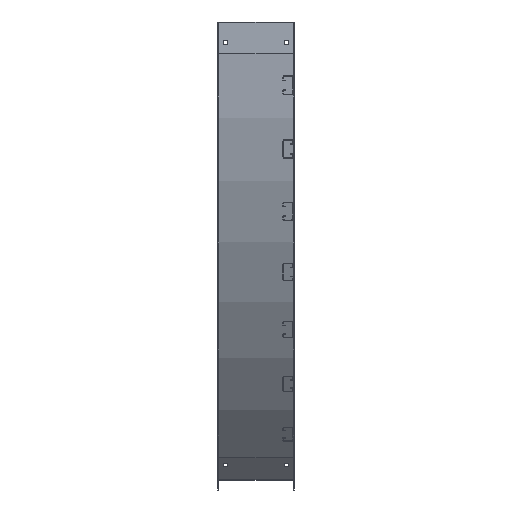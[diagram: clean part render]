
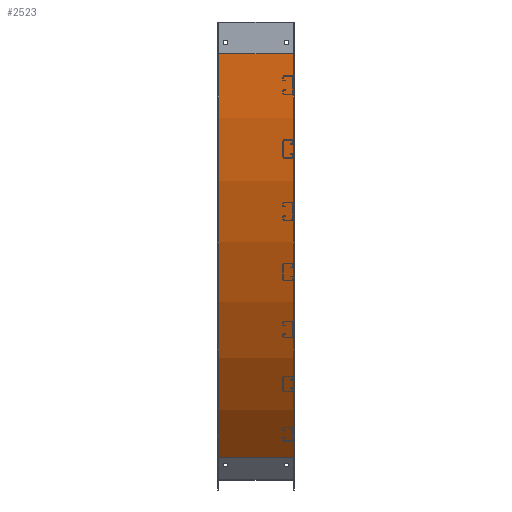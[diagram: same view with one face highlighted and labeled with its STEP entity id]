
A CAD part, left-side view. The second image highlights one B-rep face of the part: STEP entity #2523.
In plain terms, the highlighted cylindrical face has radius 1376.43 mm (diameter 2752.85 mm), a partial arc.
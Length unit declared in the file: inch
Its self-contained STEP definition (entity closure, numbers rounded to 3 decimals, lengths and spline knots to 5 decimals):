
#1560=CARTESIAN_POINT('',(-7.13,-54.09,3.));
#1561=DIRECTION('',(1.,0.,0.));
#1562=DIRECTION('',(0.,1.,0.));
#1563=AXIS2_PLACEMENT_3D('',#1560,#1561,#1562);
#1753=DIRECTION('',(-1.,0.,0.));
#1754=VECTOR('',#1753,7.02);
#1755=CARTESIAN_POINT('',(-0.11,-15.77188,41.31812));
#1756=LINE('',#1755,#1754);
#1793=DIRECTION('',(-1.,0.,0.));
#1794=VECTOR('',#1793,7.02);
#1795=CARTESIAN_POINT('',(-0.11,0.1,3.));
#1796=LINE('',#1795,#1794);
#1797=CARTESIAN_POINT('',(-0.11,-54.09,3.));
#1798=DIRECTION('',(1.,0.,0.));
#1799=DIRECTION('',(0.,1.,0.));
#1800=AXIS2_PLACEMENT_3D('',#1797,#1798,#1799);
#1924=CARTESIAN_POINT('',(-0.11,0.1,3.));
#1925=CARTESIAN_POINT('',(-7.13,0.1,3.));
#1926=VERTEX_POINT('',#1924);
#1927=VERTEX_POINT('',#1925);
#1948=CARTESIAN_POINT('',(-0.11,-15.77188,41.31812));
#1949=CARTESIAN_POINT('',(-7.13,-15.77188,41.31812));
#1950=VERTEX_POINT('',#1948);
#1951=VERTEX_POINT('',#1949);
#2512=CARTESIAN_POINT('',(-1.,-54.09,3.));
#2513=DIRECTION('',(1.,0.,0.));
#2514=DIRECTION('',(0.,-1.,0.));
#2515=AXIS2_PLACEMENT_3D('',#2512,#2513,#2514);
#2516=CYLINDRICAL_SURFACE('',#2515,54.19);
#2517=ORIENTED_EDGE('',*,*,#2297,.F.);
#2518=ORIENTED_EDGE('',*,*,#2338,.T.);
#2519=ORIENTED_EDGE('',*,*,#2485,.T.);
#2520=ORIENTED_EDGE('',*,*,#2275,.F.);
#2521=EDGE_LOOP('',(#2517,#2518,#2519,#2520));
#2522=FACE_OUTER_BOUND('',#2521,.F.);
#2523=ADVANCED_FACE('',(#2522),#2516,.T.);
#1564=CIRCLE('',#1563,54.19);
#1801=CIRCLE('',#1800,54.19);
#2275=EDGE_CURVE('',#1927,#1951,#1564,.T.);
#2297=EDGE_CURVE('',#1926,#1927,#1796,.T.);
#2338=EDGE_CURVE('',#1926,#1950,#1801,.T.);
#2485=EDGE_CURVE('',#1950,#1951,#1756,.T.);
